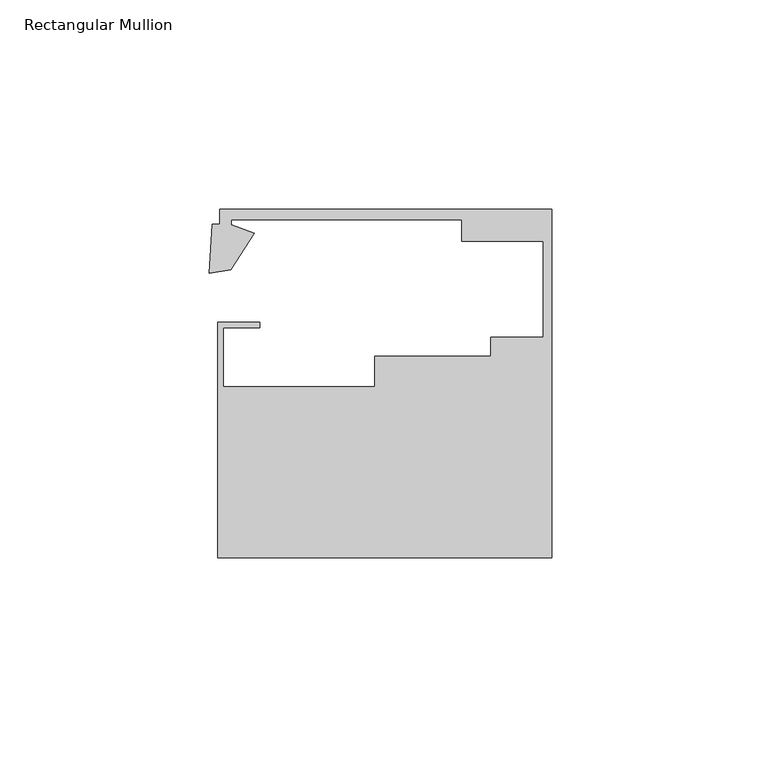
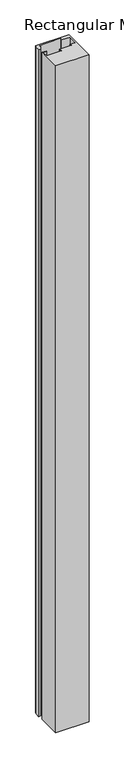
"""IFC4 building model written with IfcOpenShell, lengths in millimetres: member geometry, Rectangular Mullion : Danpal_NM_End-Mullion_B1."""

from ifc_helpers import new_model, si_unit, frame, origin, place, context, project, spatial, polyline, outline, extrude, source, transform, mapped, element, save


def rectangular_mullion_a341a077(model_context):
    return source(origin(), model_context, "Body", "SweptSolid", [
        extrude(outline(polyline([(0.0, -68.4940825), (-79.7784606, -68.4940825), (-79.7784606, -12.280939), (-69.8282946, -12.280939), (-69.8282946, -13.5916994), (-78.4582695, -13.5916994), (-78.4582695, -27.6399085), (-42.2578709, -27.6399085), (-42.2684147, -20.3894746), (-14.6000003, -20.3492381), (-14.6000003, -15.7940824), (-2.0000001, -15.7940824), (-2.0000001, 7.1181946), (-21.5478166, 7.1181946), (-21.5478166, 12.3181946), (-76.6478166, 12.3181946), (-76.6478166, 11.1168176), (-71.0577359, 9.0180613), (-76.7540801, 0.319325), (-81.8779002, -0.484903), (-81.1597999, 11.1413992), (-79.3474874, 11.1413992), (-79.3474874, 14.8003189), (0.0, 14.8051514), (0.0, -68.4940825)])), frame((0.0, 0.0, -1686.1107298), z_axis=(0.0, 0.0, 1.0), x_axis=(1.0, 0.0, 0.0)), (0.0, 0.0, 1.0), 1686.1107298),
    ])


if __name__ == "__main__":
    model = new_model("IFC4")
    model_context = context("Model", 3, world=origin())
    ifc_project = project(units=[si_unit("LENGTHUNIT", "METRE", prefix="MILLI")], contexts=[model_context])
    site = spatial("IfcSite", under=ifc_project)
    building = spatial("IfcBuilding", under=site)
    placement = place(None, origin())
    rectangular_mullion_shape = rectangular_mullion_a341a077(model_context)
    element("IfcMember", 1, ObjectType="Rectangular Mullion : Danpal_NM_End-Mullion_B1", at=placement, inside=building, context=model_context, shape_type="MappedRepresentation", body=[
        mapped(rectangular_mullion_shape, transform((0.0, 0.0, 0.0), x_axis=(1.0, 0.0, 0.0), y_axis=(0.0, 1.0, 0.0), z_axis=(0.0, 0.0, 1.0))),
    ])
    save(model, "model.ifc")
